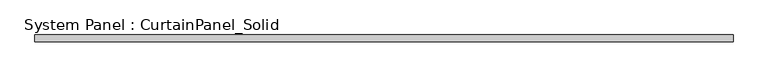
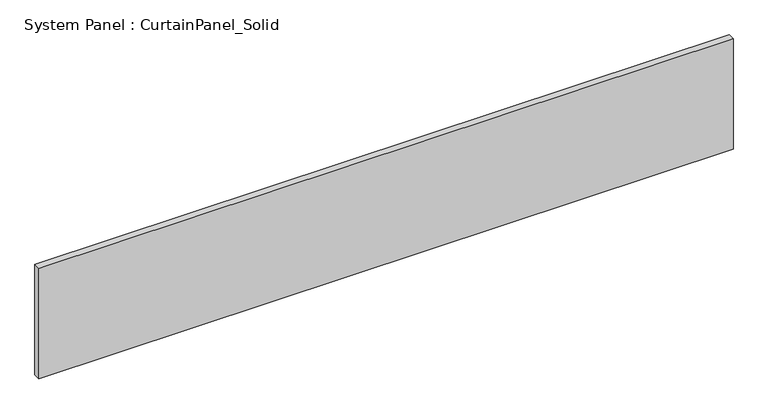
"""IFC4 building model written with IfcOpenShell, lengths in millimetres: plate geometry, System Panel : CurtainPanel_Solid."""

from ifc_helpers import new_model, si_unit, origin, origin_with_axes, place, context, project, spatial, polyline, outline, extrude, source, transform, mapped, element, save


def system_panel_curtainpanel_solid_dd3d5109(model_context):
    return source(origin(), model_context, "Body", "SweptSolid", [
        extrude(outline(polyline([(1301.0000001, -12.5), (-1301.0000001, -12.5), (-1301.0000001, 12.5), (1301.0000001, 12.5), (1301.0000001, -12.5)])), origin_with_axes(), (0.0, 0.0, 1.0), 438.3),
    ])


if __name__ == "__main__":
    model = new_model("IFC4")
    model_context = context("Model", 3, world=origin())
    ifc_project = project(units=[si_unit("LENGTHUNIT", "METRE", prefix="MILLI")], contexts=[model_context])
    site = spatial("IfcSite", under=ifc_project)
    building = spatial("IfcBuilding", under=site)
    placement = place(None, origin())
    system_panel_curtainpanel_solid_shape = system_panel_curtainpanel_solid_dd3d5109(model_context)
    element("IfcPlate", 1, ObjectType="System Panel : CurtainPanel_Solid", at=placement, inside=building, context=model_context, shape_type="MappedRepresentation", body=[
        mapped(system_panel_curtainpanel_solid_shape, transform((0.0, 0.0, 0.0), x_axis=(1.0, 0.0, 0.0), y_axis=(0.0, 1.0, 0.0), z_axis=(0.0, 0.0, 1.0))),
    ])
    save(model, "model.ifc")
